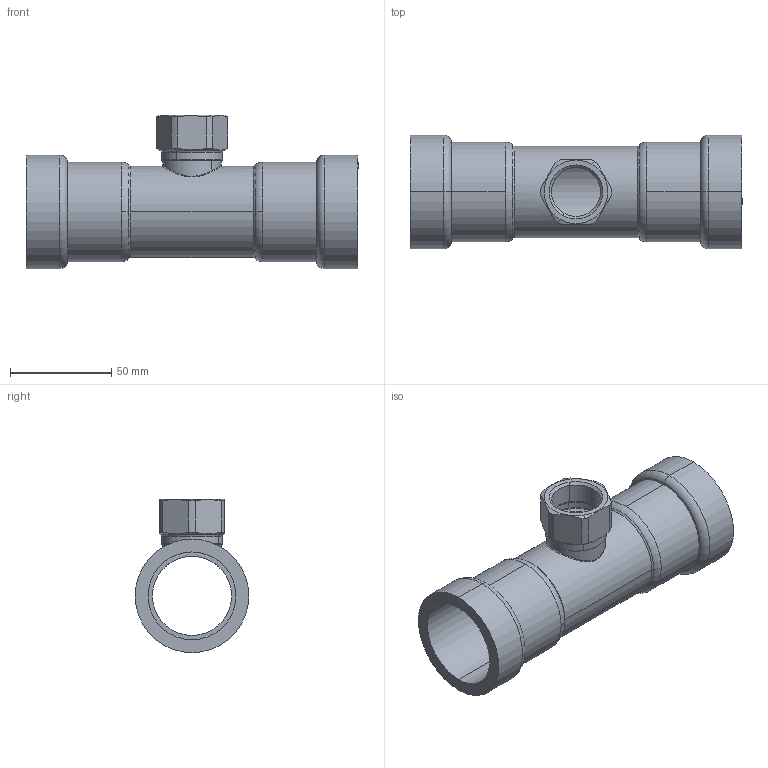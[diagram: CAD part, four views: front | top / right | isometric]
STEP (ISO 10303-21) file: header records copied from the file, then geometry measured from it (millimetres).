
FILE_DESCRIPTION(('Creo Elements/Direct Modeling STEP Export'),'2;1');
FILE_NAME('C9418_1-1-4_Rp3-4_1-1-4.stp','2020-07-20T15:55:47',(''),(''),'PTC Creo Elements/Direct Modeling STEP processor for AP214 (Solid Model)','PTC Creo Elements/Direct Modeling 19.0C 15-Aug-2015 (C) Parametric Technology GmbH','');
FILE_SCHEMA(('AUTOMOTIVE_DESIGN { 1 0 10303 214 1 1 1 1 }'));
Length unit declared in the file: millimetre
Products named in the file (2): C9418_1-1-4_Rp3-4_1-1-4
Assembly tree (1 placements, depth 2):
  C9418_1-1-4_Rp3-4_1-1-4
    C9418_1-1-4_Rp3-4_1-1-4
Bounding box: 163.66 x 56 x 75.6 mm (x, y, z)
Volume: 97290 mm3; surface area: 54404.7 mm2
Topology: 1 solids, 1 shells, 82 faces, 202 edges, 126 vertices
Faces by surface type: cylinder 32, cone 20, torus 14, plane 12, bspline 4
Entity records: 6870 total; most frequent: CARTESIAN_POINT 5043, ORIENTED_EDGE 404, DIRECTION 344, EDGE_CURVE 202, AXIS2_PLACEMENT_3D 143, VERTEX_POINT 126, EDGE_LOOP 90, FACE_OUTER_BOUND 82
